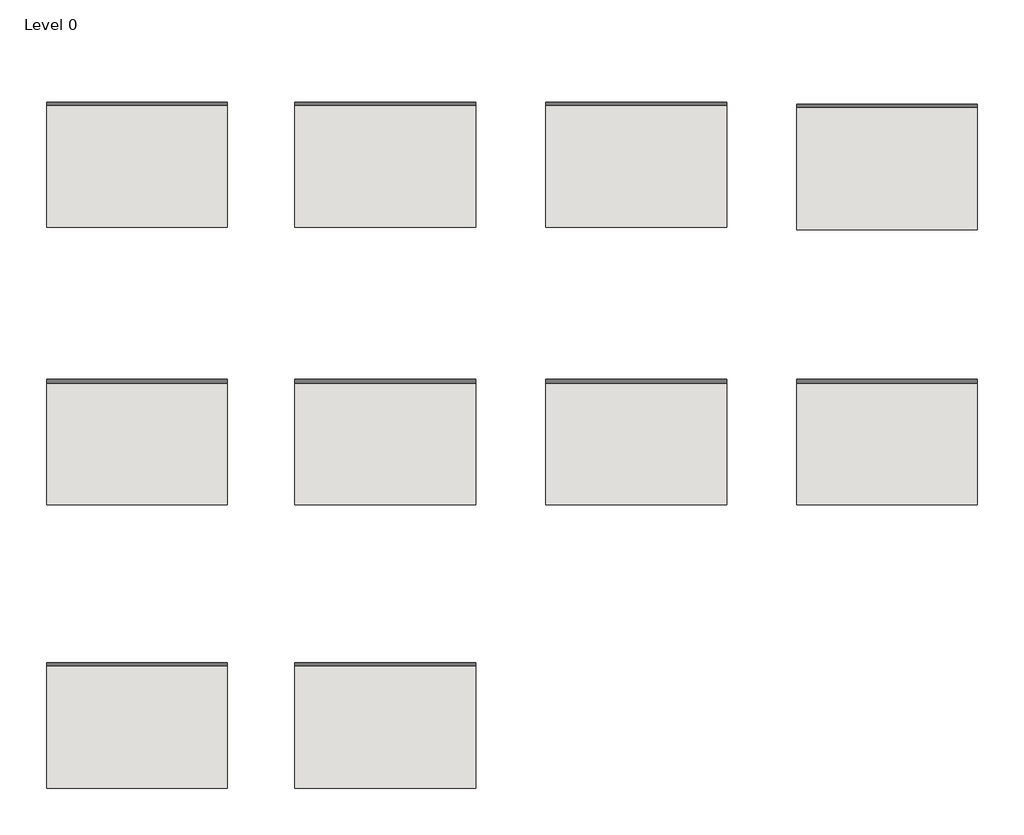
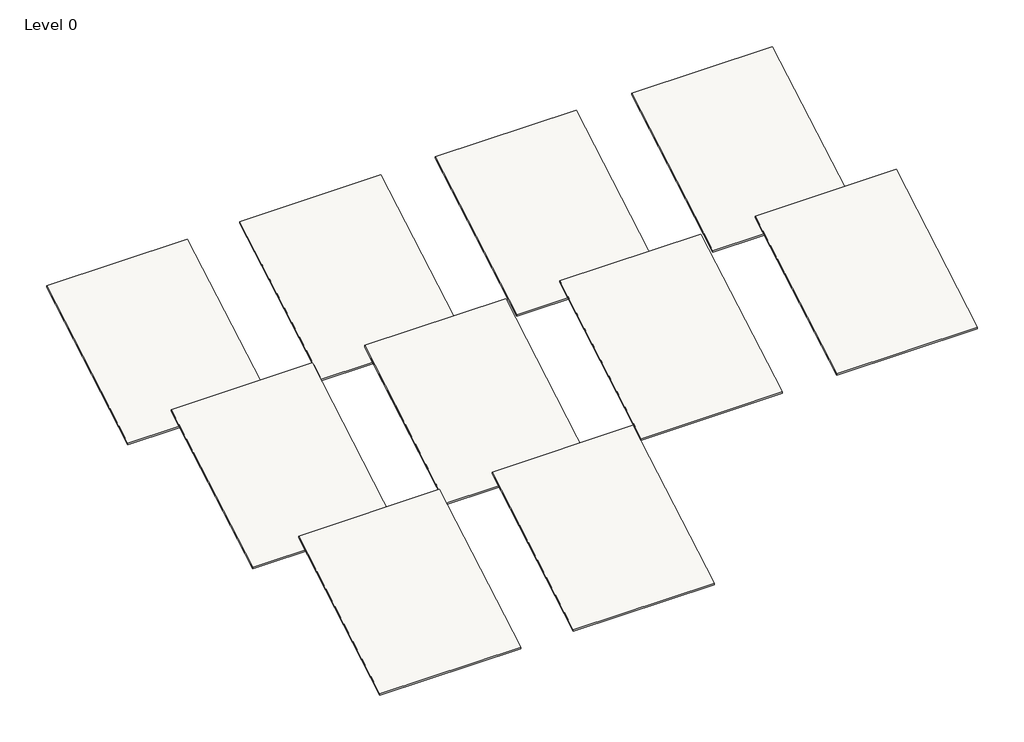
# One storey: 10 roofs.
"""IFC4 building model written with IfcOpenShell, lengths in millimetres."""

from ifc_helpers import new_model, si_unit, frame, origin, place, context, project, spatial, polyline, outline, extrude, element, save

model = new_model("IFC4")

# Units and contexts
model_context = context("Model", 3, world=origin())
ifc_project = project(units=[si_unit("LENGTHUNIT", "METRE", prefix="MILLI")], contexts=[model_context])

# Site, building, storey
site = spatial("IfcSite", under=ifc_project)
building = spatial("IfcBuilding", under=site)
storey = spatial("IfcBuildingStorey", under=building, Name="Level 0", Elevation=0.0)

# Roofs
placement = place(None, origin())
element("IfcRoof", 1, ObjectType="Planum H-Selection Red", at=placement, inside=storey, context=model_context, shape_type="SweptSolid", body=[
    extrude(outline(polyline([(-947.6345507, 34.6410162), (2052.3654493, 1766.6918237), (2052.3654493, 1732.0508076), (-947.6345507, 0.0), (-947.6345507, 34.6410162)])), frame((-4778.9622395, 0.0, 0.0), z_axis=(1.0, 0.0, 0.0), x_axis=(0.0, 1.0, 0.0)), (0.0, 0.0, 1.0), 3000.0),
])
element("IfcRoof", 2, ObjectType="Planum H-Selection Jaspee Red", at=placement, inside=storey, context=model_context, shape_type="SweptSolid", body=[
    extrude(outline(polyline([(-947.6345507, 34.6410162), (2052.3654493, 1766.6918237), (2052.3654493, 1732.0508076), (-947.6345507, 0.0), (-947.6345507, 34.6410162)])), frame((-658.9622395, 0.0, 0.0), z_axis=(1.0, 0.0, 0.0), x_axis=(0.0, 1.0, 0.0)), (0.0, 0.0, 1.0), 3000.0),
])
element("IfcRoof", 3, ObjectType="Planum H-Selection Rustic Red", at=placement, inside=storey, context=model_context, shape_type="SweptSolid", body=[
    extrude(outline(polyline([(-947.6345507, 34.6410162), (2052.3654493, 1766.6918237), (2052.3654493, 1732.0508076), (-947.6345507, 0.0), (-947.6345507, 34.6410162)])), frame((3501.0377605, 0.0, 0.0), z_axis=(1.0, 0.0, 0.0), x_axis=(0.0, 1.0, 0.0)), (0.0, 0.0, 1.0), 3000.0),
])
element("IfcRoof", 4, ObjectType="Planum H-Selection Burgundy", at=placement, inside=storey, context=model_context, shape_type="SweptSolid", body=[
    extrude(outline(polyline([(-982.2173214, 34.6410162), (2017.7826786, 1766.6918237), (2017.7826786, 1732.0508076), (-982.2173214, 0.0), (-982.2173214, 34.6410162)])), frame((7660.8703287, 0.0, 0.0), z_axis=(1.0, 0.0, 0.0), x_axis=(0.0, 1.0, 0.0)), (0.0, 0.0, 1.0), 3000.0),
])
element("IfcRoof", 5, ObjectType="Planum H-Selection Brown", at=placement, inside=storey, context=model_context, shape_type="SweptSolid", body=[
    extrude(outline(polyline([(-5547.6345507, 34.6410162), (-2547.6345507, 1766.6918237), (-2547.6345507, 1732.0508076), (-5547.6345507, 0.0), (-5547.6345507, 34.6410162)])), frame((-4778.9622395, 0.0, 0.0), z_axis=(1.0, 0.0, 0.0), x_axis=(0.0, 1.0, 0.0)), (0.0, 0.0, 1.0), 3000.0),
])
element("IfcRoof", 6, ObjectType="Planum H-Selection Slate", at=placement, inside=storey, context=model_context, shape_type="SweptSolid", body=[
    extrude(outline(polyline([(-5547.6345507, 34.6410162), (-2547.6345507, 1766.6918237), (-2547.6345507, 1732.0508076), (-5547.6345507, 0.0), (-5547.6345507, 34.6410162)])), frame((-658.9622395, 0.0, 0.0), z_axis=(1.0, 0.0, 0.0), x_axis=(0.0, 1.0, 0.0)), (0.0, 0.0, 1.0), 3000.0),
])
element("IfcRoof", 7, ObjectType="Planum H-Selection Pepper", at=placement, inside=storey, context=model_context, shape_type="SweptSolid", body=[
    extrude(outline(polyline([(-5547.6345507, 34.6410162), (-2547.6345507, 1766.6918237), (-2547.6345507, 1732.0508076), (-5547.6345507, 0.0), (-5547.6345507, 34.6410162)])), frame((7661.0377605, 0.0, 0.0), z_axis=(1.0, 0.0, 0.0), x_axis=(0.0, 1.0, 0.0)), (0.0, 0.0, 1.0), 3000.0),
])
element("IfcRoof", 8, ObjectType="Planum H-Selection Galaxy", at=placement, inside=storey, context=model_context, shape_type="SweptSolid", body=[
    extrude(outline(polyline([(-10247.6345507, 34.6410162), (-7247.6345507, 1766.6918237), (-7247.6345507, 1732.0508076), (-10247.6345507, 0.0), (-10247.6345507, 34.6410162)])), frame((-4778.9622395, 0.0, 0.0), z_axis=(1.0, 0.0, 0.0), x_axis=(0.0, 1.0, 0.0)), (0.0, 0.0, 1.0), 3000.0),
])
element("IfcRoof", 9, ObjectType="Planum H-Selection Blackstone", at=placement, inside=storey, context=model_context, shape_type="SweptSolid", body=[
    extrude(outline(polyline([(-10247.6345507, 34.6410162), (-7247.6345507, 1766.6918237), (-7247.6345507, 1732.0508076), (-10247.6345507, 0.0), (-10247.6345507, 34.6410162)])), frame((-658.9622395, 0.0, 0.0), z_axis=(1.0, 0.0, 0.0), x_axis=(0.0, 1.0, 0.0)), (0.0, 0.0, 1.0), 3000.0),
])
element("IfcRoof", 10, ObjectType="Planum H-Selection Grey", at=placement, inside=storey, context=model_context, shape_type="SweptSolid", body=[
    extrude(outline(polyline([(-5547.6345507, 34.6410162), (-2547.6345507, 1766.6918237), (-2547.6345507, 1732.0508076), (-5547.6345507, 0.0), (-5547.6345507, 34.6410162)])), frame((3501.0377605, 0.0, 0.0), z_axis=(1.0, 0.0, 0.0), x_axis=(0.0, 1.0, 0.0)), (0.0, 0.0, 1.0), 3000.0),
])

save(model, "model.ifc")
